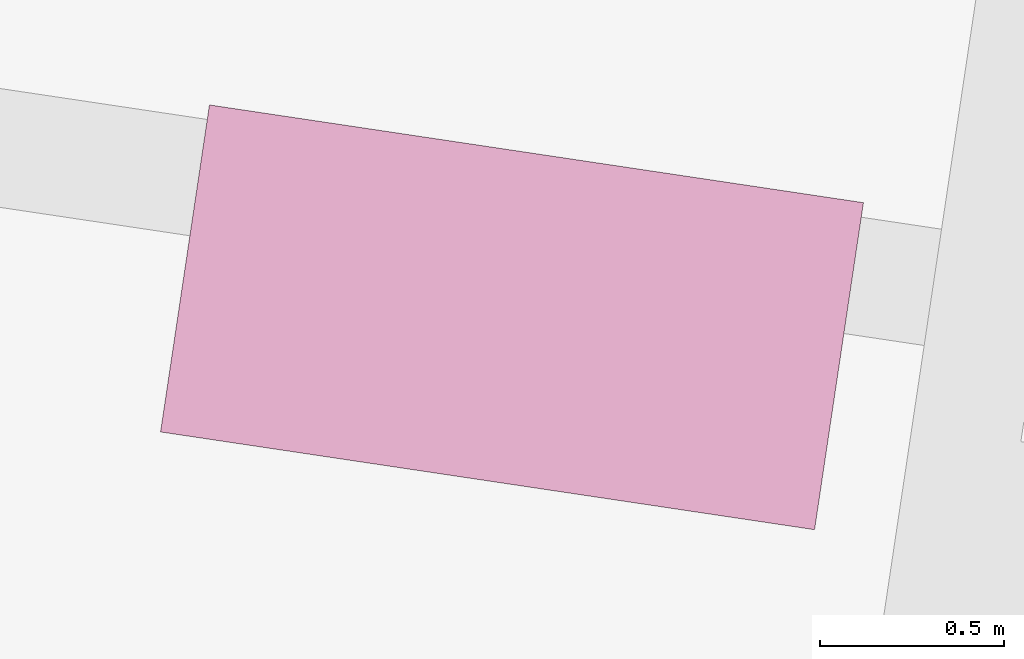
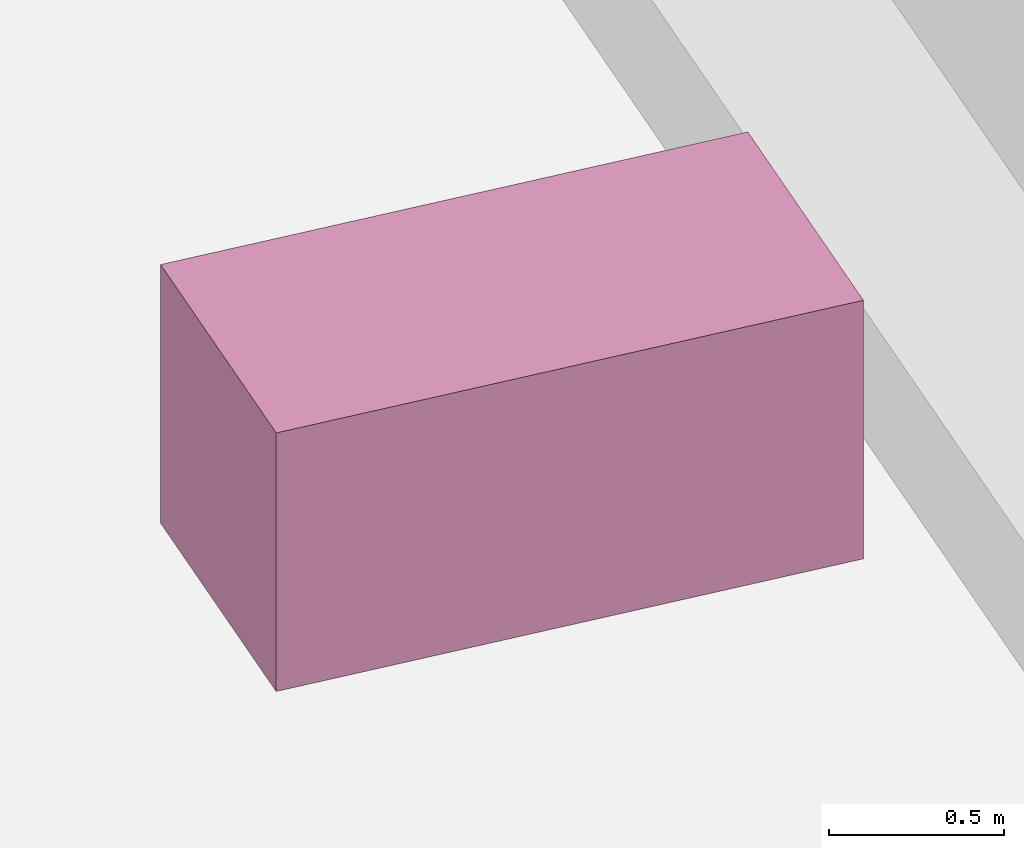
# One storey, part 141 of 142: 1 furnishing.
"""IFC4 building model written with IfcOpenShell, lengths in metres."""

from ifc_helpers import new_model, si_unit, direction, frame, origin_with_axes, place, context, subcontext, project, spatial, polyline, outline, extrude, material, element, save


model = new_model("IFC4")

# Units and contexts
model_context = context("Model", 3, precision=1e-05, world=origin_with_axes(), true_north=direction((0.0, 1.0)))
body_context = subcontext(model_context, "Body", "Model", "MODEL_VIEW")
ifc_project = project(units=[si_unit("LENGTHUNIT", "METRE"), si_unit("AREAUNIT", "SQUARE_METRE"), si_unit("VOLUMEUNIT", "CUBIC_METRE")], contexts=[model_context])

# Site, building, storey
site_placement = place(None, origin_with_axes())
site = spatial("IfcSite", under=ifc_project, at=site_placement, Name="Lares · Rua das Mercês · artigo 4771")
building_placement = place(site_placement, frame((15.0, 9.7, 14.65), z_axis=(0.0, 0.0, 1.0), x_axis=(0.989015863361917, -0.147809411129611, 0.0)))
building = spatial("IfcBuilding", under=site, at=building_placement, Name="Casa Sobreposta")
storey_placement = place(building_placement, origin_with_axes())
storey = spatial("IfcBuildingStorey", under=building, at=storey_placement, Name="00 · Habitação e estacionamento", Elevation=14.65)

# Furnishing
ifc_material = material(Name="OSB", Category="wood")
furnishing_placement = place(storey_placement, origin_with_axes())
element("IfcFurnishingElement", 1, at=furnishing_placement, inside=storey, material=ifc_material, Name="Ilha da cozinha · esquema", context=body_context, shape_type="SweptSolid", body=[
    extrude(outline(polyline([(7.1, 2.5), (7.1, 3.4), (5.3, 3.4), (5.3, 2.5), (7.1, 2.5)])), origin_with_axes(), (0.0, 0.0, 1.0), 0.9),
])

save(model, "model.ifc")
